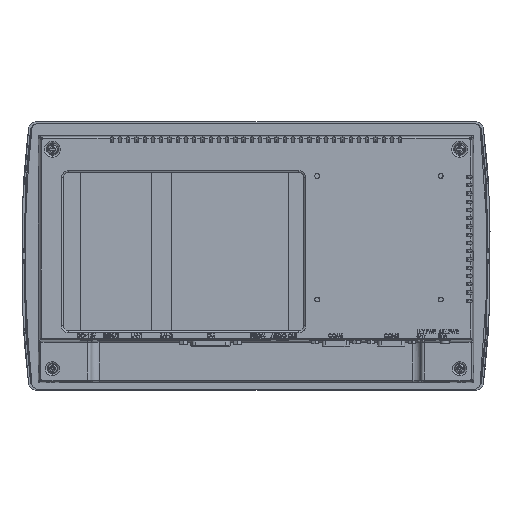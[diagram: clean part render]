
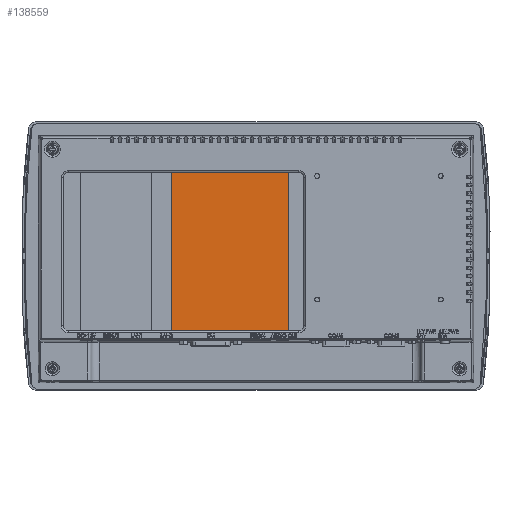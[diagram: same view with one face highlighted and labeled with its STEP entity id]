
A CAD part, top view. The second image highlights one B-rep face of the part: STEP entity #138559.
In plain terms, the highlighted planar face has unit normal (0, 0, 1).
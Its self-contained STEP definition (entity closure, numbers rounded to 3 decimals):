
#4072 = ORIENTED_EDGE ( 'NONE', *, *, #49739, .F. ) ;
#6574 = PLANE ( 'NONE',  #31844 ) ;
#6603 = CARTESIAN_POINT ( 'NONE',  ( -70.71, -105.36, 49.8 ) ) ;
#7211 = VERTEX_POINT ( 'NONE', #217644 ) ;
#11655 = EDGE_CURVE ( 'NONE', #137464, #205502, #53504, .T. ) ;
#20573 = ORIENTED_EDGE ( 'NONE', *, *, #11655, .T. ) ;
#23237 = ORIENTED_EDGE ( 'NONE', *, *, #222032, .T. ) ;
#23811 = DIRECTION ( 'NONE',  ( 1., 0., 0. ) ) ;
#31844 = AXIS2_PLACEMENT_3D ( 'NONE', #92833, #212933, #110081 ) ;
#32744 = LINE ( 'NONE', #6603, #210023 ) ;
#33816 = VECTOR ( 'NONE', #190453, 1000. ) ;
#39593 = CARTESIAN_POINT ( 'NONE',  ( -70.71, -3.16, 49.8 ) ) ;
#45661 = EDGE_LOOP ( 'NONE', ( #75024, #20573, #23237, #4072 ) ) ;
#49739 = EDGE_CURVE ( 'NONE', #7211, #154659, #79436, .T. ) ;
#53060 = CARTESIAN_POINT ( 'NONE',  ( 0.49, -3.16, 49.8 ) ) ;
#53504 = LINE ( 'NONE', #39593, #185249 ) ;
#55351 = CARTESIAN_POINT ( 'NONE',  ( -138.71, -3.16, 49.8 ) ) ;
#62068 = LINE ( 'NONE', #55351, #148071 ) ;
#74089 = DIRECTION ( 'NONE',  ( 0., -1., 0. ) ) ;
#75024 = ORIENTED_EDGE ( 'NONE', *, *, #135293, .T. ) ;
#79436 = LINE ( 'NONE', #53060, #33816 ) ;
#90637 = DIRECTION ( 'NONE',  ( -1., 0., 0. ) ) ;
#92833 = CARTESIAN_POINT ( 'NONE',  ( -70.71, -3.16, 49.8 ) ) ;
#95298 = CARTESIAN_POINT ( 'NONE',  ( -70.71, -3.16, 49.8 ) ) ;
#110081 = DIRECTION ( 'NONE',  ( 0., 1., 0. ) ) ;
#135293 = EDGE_CURVE ( 'NONE', #7211, #137464, #62068, .T. ) ;
#137464 = VERTEX_POINT ( 'NONE', #95298 ) ;
#138244 = FACE_OUTER_BOUND ( 'NONE', #45661, .T. ) ;
#138559 = ADVANCED_FACE ( 'NONE', ( #138244 ), #6574, .F. ) ;
#148071 = VECTOR ( 'NONE', #90637, 1000. ) ;
#154659 = VERTEX_POINT ( 'NONE', #158688 ) ;
#158688 = CARTESIAN_POINT ( 'NONE',  ( 0.49, -105.36, 49.8 ) ) ;
#185249 = VECTOR ( 'NONE', #74089, 1000. ) ;
#190453 = DIRECTION ( 'NONE',  ( 0., -1., 0. ) ) ;
#205317 = CARTESIAN_POINT ( 'NONE',  ( -70.71, -105.36, 49.8 ) ) ;
#205502 = VERTEX_POINT ( 'NONE', #205317 ) ;
#210023 = VECTOR ( 'NONE', #23811, 1000. ) ;
#212933 = DIRECTION ( 'NONE',  ( 0., 0., -1. ) ) ;
#217644 = CARTESIAN_POINT ( 'NONE',  ( 0.49, -3.16, 49.8 ) ) ;
#222032 = EDGE_CURVE ( 'NONE', #205502, #154659, #32744, .T. ) ;
